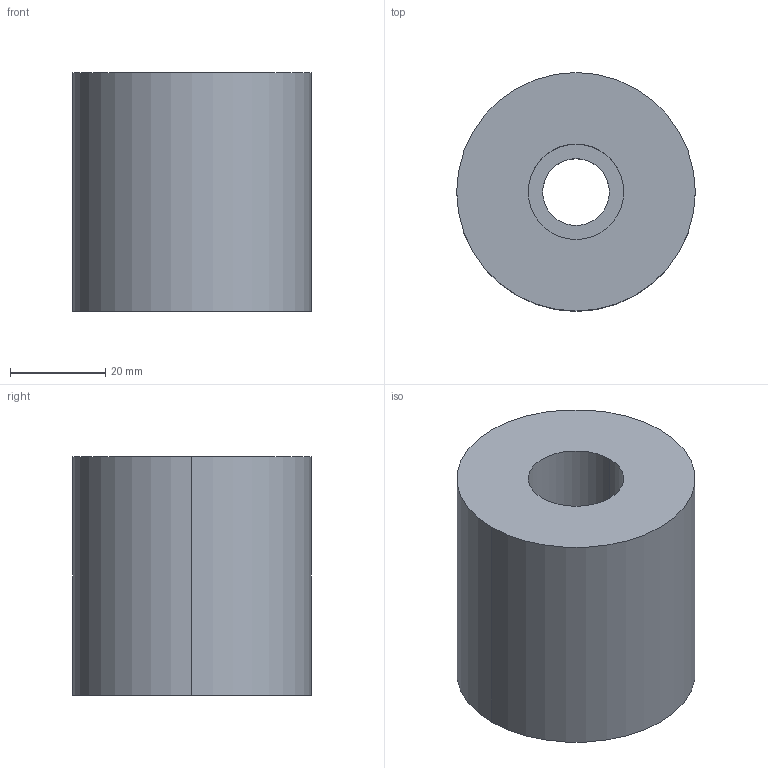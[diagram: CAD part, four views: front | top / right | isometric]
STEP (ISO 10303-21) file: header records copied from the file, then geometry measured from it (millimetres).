
FILE_DESCRIPTION(/* description */ (''),/* implementation_level */ '2;1');
FILE_NAME(/* name */ '3d_aznx50-50-m12-20_03263_r00.stp',/* time_stamp */ '2011-01-10T14:17:33+09:00',/* author */ ('MISUMI'),/* organization */ (''),/* preprocessor_version */ 'ST-DEVELOPER v11',/* originating_system */ 'UGS - NX 5.0',/* authorisation */ '');
FILE_SCHEMA (('CONFIG_CONTROL_DESIGN'));
Length unit declared in the file: millimetre
Products named in the file (1): 3d_aznx50-50-m12-20_03263_r00
Bounding box: 50 x 50 x 50 mm (x, y, z)
Volume: 85671.2 mm3; surface area: 14237.7 mm2
Topology: 1 solids, 1 shells, 9 faces, 18 edges, 12 vertices
Faces by surface type: cylinder 6, plane 3
Entity records: 334 total; most frequent: DIRECTION 50, CARTESIAN_POINT 40, ORIENTED_EDGE 36, AXIS2_PLACEMENT_3D 22, EDGE_CURVE 18, EDGE_LOOP 12, VERTEX_POINT 12, CIRCLE 12
